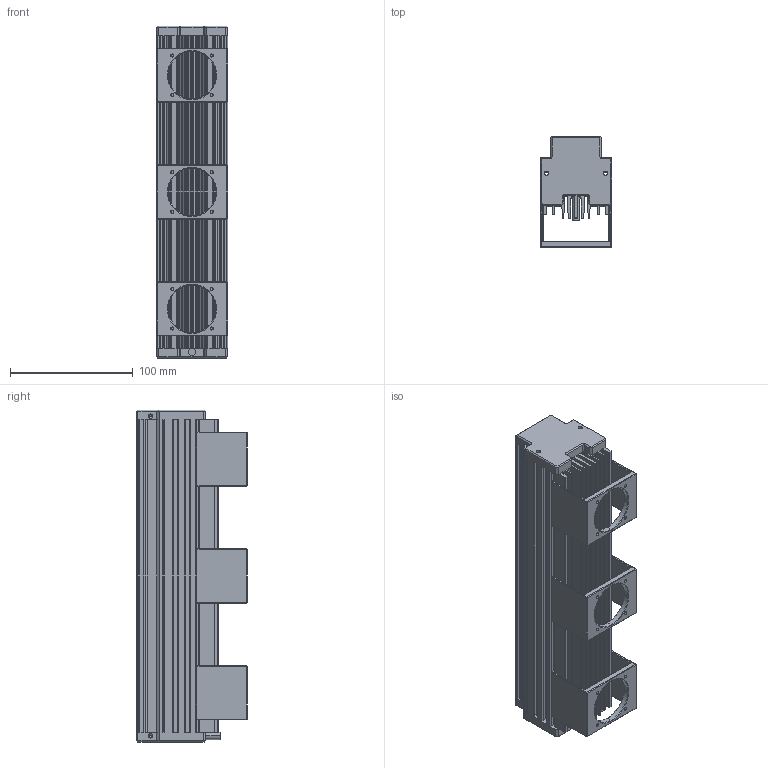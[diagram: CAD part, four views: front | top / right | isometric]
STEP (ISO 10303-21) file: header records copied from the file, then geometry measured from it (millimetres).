
FILE_DESCRIPTION((''),'2;1');
FILE_NAME('MV-LTHS-254-W','2021-05-08T',('Administrator'),(''),'PRO/ENGINEER BY PARAMETRIC TECHNOLOGY CORPORATION, 2010100','PRO/ENGINEER BY PARAMETRIC TECHNOLOGY CORPORATION, 2010100','');
FILE_SCHEMA(('CONFIG_CONTROL_DESIGN'));
Length unit declared in the file: millimetre
Products named in the file (1): MV-LTHS-254-W
Bounding box: 58 x 90.1 x 270 mm (x, y, z)
Volume: 740582.6 mm3; surface area: 228519.7 mm2
Topology: 4 solids, 12 shells, 569 faces, 1470 edges, 925 vertices
Faces by surface type: plane 385, cylinder 148, cone 36
Entity records: 17129 total; most frequent: CARTESIAN_POINT 2998, DIRECTION 2917, ORIENTED_EDGE 2908, EDGE_CURVE 1454, VECTOR 1117, LINE 1117, VERTEX_POINT 925, AXIS2_PLACEMENT_3D 900
